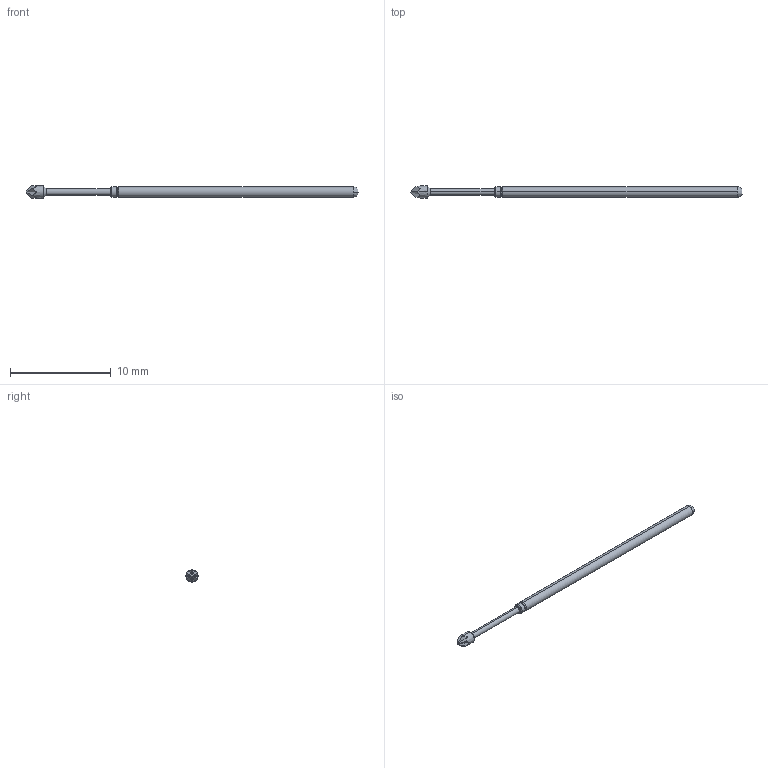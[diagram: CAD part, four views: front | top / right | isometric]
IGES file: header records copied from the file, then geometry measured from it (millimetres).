
Start section: SolidWorks IGES file using analytic representation for surfaces
Global section: file name: Z:\probe solid model mockups\Solidworks models\Parts\LFRE-1P.IGS; native system: SolidWorks 2016; preprocessor: SolidWorks 2016; author: mlee; date: 180927.163723; units: inch
Bounding box: 33.01 x 1.19 x 1.19 mm (x, y, z)
Surface area: 98.5 mm2 (no closed solid volume)
Topology: 0 solids, 0 shells, 34 faces, 202 edges, 202 vertices
Faces by surface type: bspline 18, revolution 16
